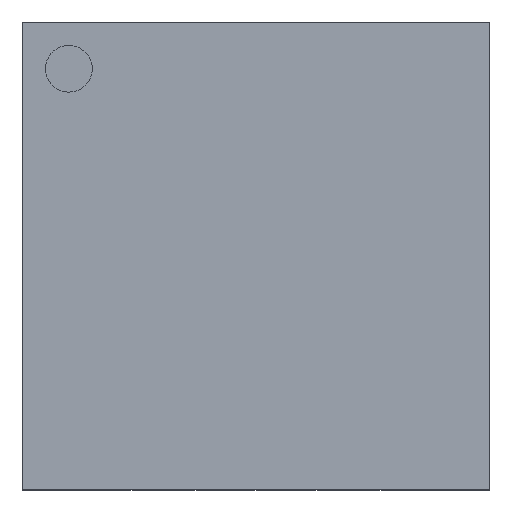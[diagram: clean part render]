
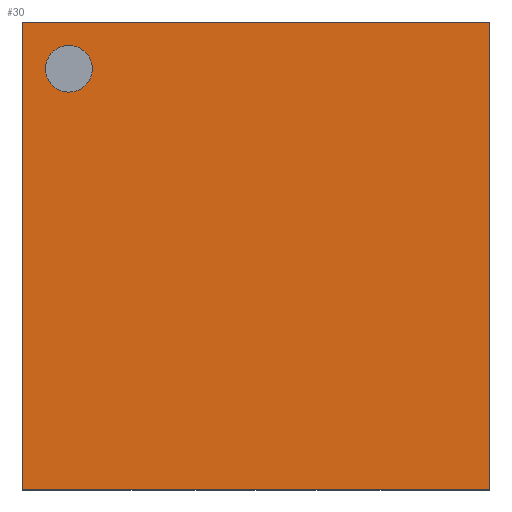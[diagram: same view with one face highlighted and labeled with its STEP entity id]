
A CAD part, top view. The second image highlights one B-rep face of the part: STEP entity #30.
In plain terms, the highlighted planar face has unit normal (0, 0, 1).
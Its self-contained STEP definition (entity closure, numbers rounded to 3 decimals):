
#13=DIRECTION('',(0.,0.,1.));
#21=EDGE_CURVE('',#22,#22,#24,.T.);
#22=VERTEX_POINT('',#23);
#23=CARTESIAN_POINT('',(-0.7,0.8,0.6));
#24=CIRCLE('',#25,0.1);
#25=AXIS2_PLACEMENT_3D('',#26,#13,#27);
#26=CARTESIAN_POINT('',(-0.8,0.8,0.6));
#27=DIRECTION('',(1.,0.,0.));
#30=ADVANCED_FACE('',(#31,#56),#59,.T.);
#31=FACE_BOUND('',#32,.T.);
#32=EDGE_LOOP('',(#33,#42,#48,#53));
#33=ORIENTED_EDGE('',*,*,#34,.F.);
#34=EDGE_CURVE('',#35,#37,#39,.T.);
#35=VERTEX_POINT('',#36);
#36=CARTESIAN_POINT('',(-1.,-1.,0.6));
#37=VERTEX_POINT('',#38);
#38=CARTESIAN_POINT('',(-1.,1.,0.6));
#39=LINE('',#36,#40);
#40=VECTOR('',#41,1.);
#41=DIRECTION('',(0.,1.,0.));
#42=ORIENTED_EDGE('',*,*,#43,.T.);
#43=EDGE_CURVE('',#35,#44,#46,.T.);
#44=VERTEX_POINT('',#45);
#45=CARTESIAN_POINT('',(1.,-1.,0.6));
#46=LINE('',#36,#47);
#47=VECTOR('',#27,1.);
#48=ORIENTED_EDGE('',*,*,#49,.T.);
#49=EDGE_CURVE('',#44,#50,#52,.T.);
#50=VERTEX_POINT('',#51);
#51=CARTESIAN_POINT('',(1.,1.,0.6));
#52=LINE('',#45,#40);
#53=ORIENTED_EDGE('',*,*,#54,.F.);
#54=EDGE_CURVE('',#37,#50,#55,.T.);
#55=LINE('',#38,#47);
#56=FACE_BOUND('',#57,.T.);
#57=EDGE_LOOP('',(#58));
#58=ORIENTED_EDGE('',*,*,#21,.F.);
#59=PLANE('',#60);
#60=AXIS2_PLACEMENT_3D('',#36,#13,#27);
